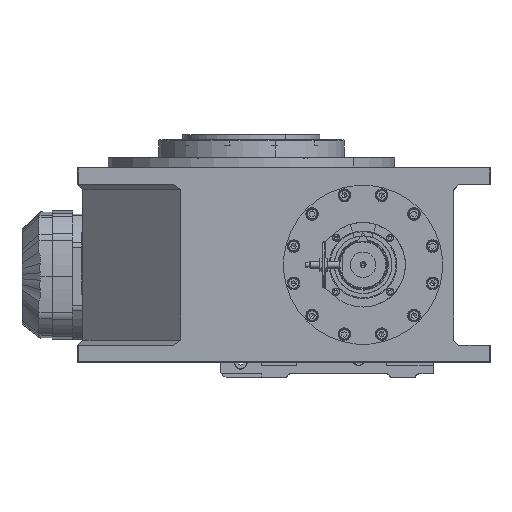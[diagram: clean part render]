
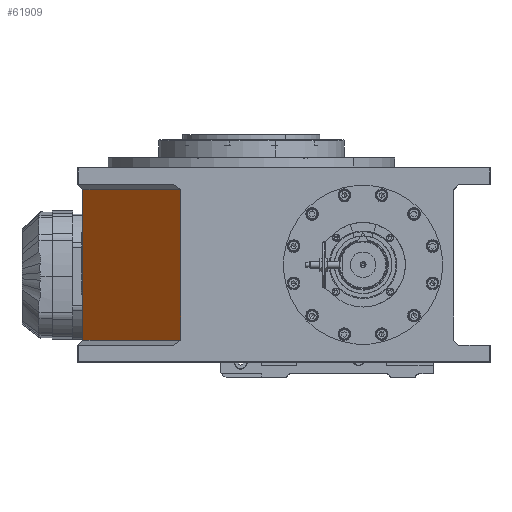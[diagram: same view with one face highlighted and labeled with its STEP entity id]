
A CAD part, top view. The second image highlights one B-rep face of the part: STEP entity #61909.
In plain terms, the highlighted planar face has unit normal (-0.707, 0, 0.707).
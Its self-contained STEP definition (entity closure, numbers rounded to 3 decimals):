
#5122 = EDGE_CURVE ( 'NONE', #71412, #10894, #5564, .T. ) ;
#5564 = LINE ( 'NONE', #25285, #19932 ) ;
#10599 = EDGE_CURVE ( 'NONE', #55529, #38970, #70025, .T. ) ;
#10894 = VERTEX_POINT ( 'NONE', #38852 ) ;
#11099 = DIRECTION ( 'NONE',  ( 0., -1., 0. ) ) ;
#12010 = PLANE ( 'NONE',  #36009 ) ;
#16899 = LINE ( 'NONE', #70937, #81214 ) ;
#18151 = ORIENTED_EDGE ( 'NONE', *, *, #10599, .T. ) ;
#18192 = DIRECTION ( 'NONE',  ( -0.707, 0., -0.707 ) ) ;
#19513 = CARTESIAN_POINT ( 'NONE',  ( -83.259, 210., 199. ) ) ;
#19932 = VECTOR ( 'NONE', #46219, 1000. ) ;
#19945 = FACE_OUTER_BOUND ( 'NONE', #71438, .T. ) ;
#25285 = CARTESIAN_POINT ( 'NONE',  ( -199., 204., 83.259 ) ) ;
#32505 = CARTESIAN_POINT ( 'NONE',  ( -199., 26., 83.259 ) ) ;
#34984 = ORIENTED_EDGE ( 'NONE', *, *, #68417, .F. ) ;
#36009 = AXIS2_PLACEMENT_3D ( 'NONE', #19513, #78257, #18192 ) ;
#37912 = CARTESIAN_POINT ( 'NONE',  ( -83.259, 204., 199. ) ) ;
#38482 = ORIENTED_EDGE ( 'NONE', *, *, #5122, .T. ) ;
#38852 = CARTESIAN_POINT ( 'NONE',  ( -199., 204., 83.259 ) ) ;
#38970 = VERTEX_POINT ( 'NONE', #69920 ) ;
#41607 = VECTOR ( 'NONE', #11099, 1000. ) ;
#41744 = ORIENTED_EDGE ( 'NONE', *, *, #46394, .T. ) ;
#46219 = DIRECTION ( 'NONE',  ( -0.707, 0., -0.707 ) ) ;
#46394 = EDGE_CURVE ( 'NONE', #10894, #55529, #55298, .T. ) ;
#55298 = LINE ( 'NONE', #64745, #41607 ) ;
#55529 = VERTEX_POINT ( 'NONE', #32505 ) ;
#56989 = DIRECTION ( 'NONE',  ( 0., -1., 0. ) ) ;
#61909 = ADVANCED_FACE ( 'NONE', ( #19945 ), #12010, .F. ) ;
#63051 = DIRECTION ( 'NONE',  ( 0.707, 0., 0.707 ) ) ;
#64745 = CARTESIAN_POINT ( 'NONE',  ( -199., 210., 83.259 ) ) ;
#68417 = EDGE_CURVE ( 'NONE', #71412, #38970, #16899, .T. ) ;
#69474 = VECTOR ( 'NONE', #63051, 1000. ) ;
#69920 = CARTESIAN_POINT ( 'NONE',  ( -83.259, 26., 199. ) ) ;
#70025 = LINE ( 'NONE', #76967, #69474 ) ;
#70937 = CARTESIAN_POINT ( 'NONE',  ( -83.259, 210., 199. ) ) ;
#71412 = VERTEX_POINT ( 'NONE', #37912 ) ;
#71438 = EDGE_LOOP ( 'NONE', ( #34984, #38482, #41744, #18151 ) ) ;
#76967 = CARTESIAN_POINT ( 'NONE',  ( -83.259, 26., 199. ) ) ;
#78257 = DIRECTION ( 'NONE',  ( 0.707, 0., -0.707 ) ) ;
#81214 = VECTOR ( 'NONE', #56989, 1000. ) ;
